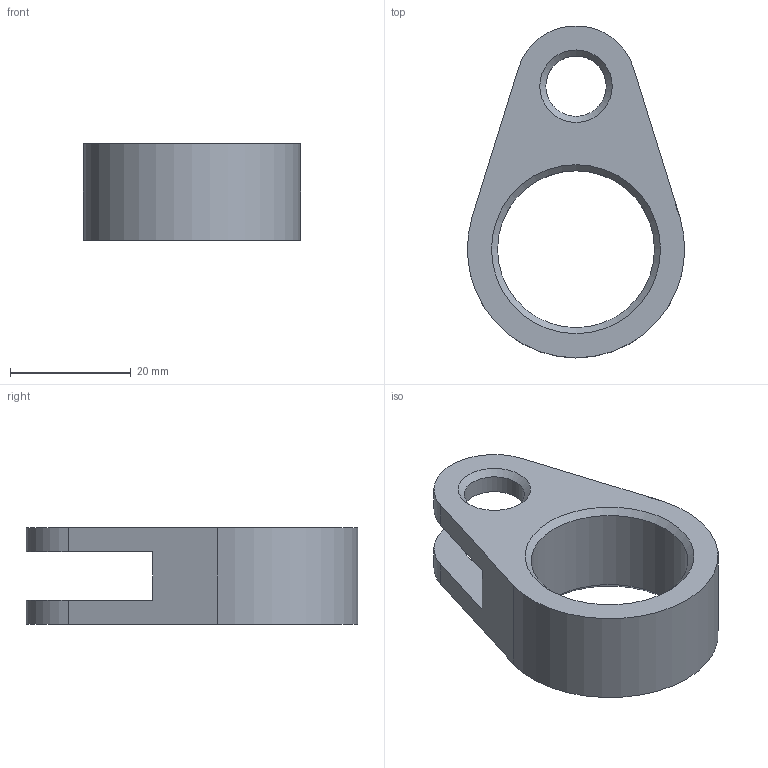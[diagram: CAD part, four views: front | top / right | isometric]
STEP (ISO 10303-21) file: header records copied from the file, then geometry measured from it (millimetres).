
FILE_DESCRIPTION(/* description */ (''),/* implementation_level */ '2;1');
FILE_NAME(/* name */ '',/* time_stamp */ '2024-08-09T13:02:38+09:00',/* author */ ('jhkim'),/* organization */ (''),/* preprocessor_version */ 'ST-DEVELOPER v20',/* originating_system */ 'Autodesk Inventor 2025',/* authorisation */ '');
FILE_SCHEMA (('AUTOMOTIVE_DESIGN { 1 0 10303 214 3 1 1 }'));
Length unit declared in the file: millimetre
Products named in the file (1): 링크
Bounding box: 35.97 x 54.96 x 16 mm (x, y, z)
Volume: 10639.1 mm3; surface area: 5972.3 mm2
Topology: 1 solids, 1 shells, 19 faces, 47 edges, 30 vertices
Faces by surface type: plane 8, cylinder 7, cone 4
Full cylindrical faces by diameter (mm): 10 x2, 26 x1
Entity records: 626 total; most frequent: DIRECTION 105, CARTESIAN_POINT 97, ORIENTED_EDGE 94, EDGE_CURVE 47, AXIS2_PLACEMENT_3D 38, VERTEX_POINT 30, LINE 29, VECTOR 29
